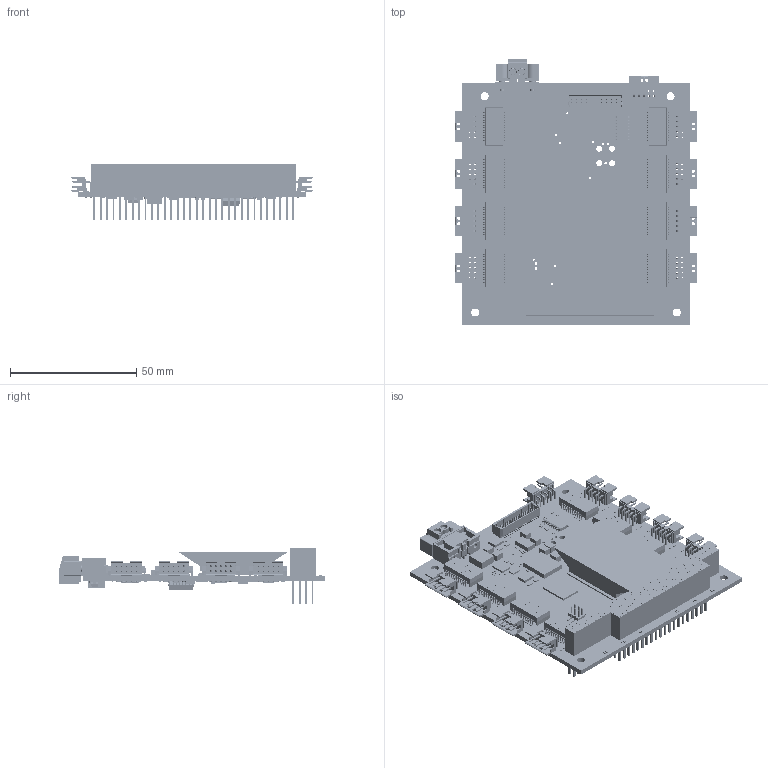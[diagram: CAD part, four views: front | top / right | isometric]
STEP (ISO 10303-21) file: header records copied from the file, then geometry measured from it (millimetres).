
FILE_DESCRIPTION(('Open CASCADE Model'),'2;1');
FILE_NAME('Open CASCADE Shape Model','2013-11-18T09:02:38',('Author'),( 'Open CASCADE'),'Open CASCADE STEP processor 6.2','Open CASCADE 6.2' ,'Unknown');
FILE_SCHEMA(('AUTOMOTIVE_DESIGN { 1 0 10303 214 1 1 1 1 }'));
Length unit declared in the file: millimetre
Products named in the file (495): PCB; Board; C151; 1027968352; Extruded; 1027967712; U4H; 749020023; U4G; U4F; U4E; U4D; U4C; U4B; U4A; R41H; 1027981664; 1027967584; R41G; R41F; R41E; R41D; R41C; R41B; R41A; R40H; R40G; R40F; R40E; R40D; R40C; R40B; R40A; R39H; R39G; R39F; R39E; R39D; R39C; R39B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
Assembly tree (1679 placements, depth 4):
  PCB
    Board
    C151
      1027968352
        Extruded
      1027967712  x2
        Extruded
    U4H
      749020023
    U4G
      749020023
    U4F
      749020023
    U4E
      749020023
    U4D
      749020023
    U4C
      749020023
    U4B
      749020023
    U4A
      749020023
    R41H
      1027981664  x2
        Extruded
      1027967584
        Extruded
    R41G
      1027981664  x2
        Extruded
      1027967584
        Extruded
    R41F
      1027981664  x2
        Extruded
      1027967584
        Extruded
    R41E
      1027981664  x2
        Extruded
      1027967584
        Extruded
    R41D
      1027981664  x2
        Extruded
      1027967584
        Extruded
    R41C
      1027981664  x2
        Extruded
      1027967584
        Extruded
    R41B
      1027981664  x2
        Extruded
      1027967584
        Extruded
    R41A
      1027981664  x2
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Bounding box: 95.65 x 105.67 x 22.08 mm (x, y, z)
Volume: 43482.5 mm3; surface area: 60339.3 mm2
Topology: 1247 solids, 1247 shells, 18911 faces, 46079 edges, 29916 vertices
Faces by surface type: plane 16768, cylinder 1799, extrusion 248, cone 50, sphere 30, torus 16
Full cylindrical faces by diameter (mm): 0.5 x8, 0.7 x2, 0.8 x90, 0.889 x7, 0.995 x6, 1.067 x102, 1.2 x2, 2.375 x4, 3.175 x4, 20 x1
Entity records: 302529 total; most frequent: CARTESIAN_POINT 66207, DIRECTION 40981, VECTOR 26100, LINE 26069, ORIENTED_EDGE 21496, PCURVE 21496, DEFINITIONAL_REPRESENTATION 21496, EDGE_CURVE 10748
